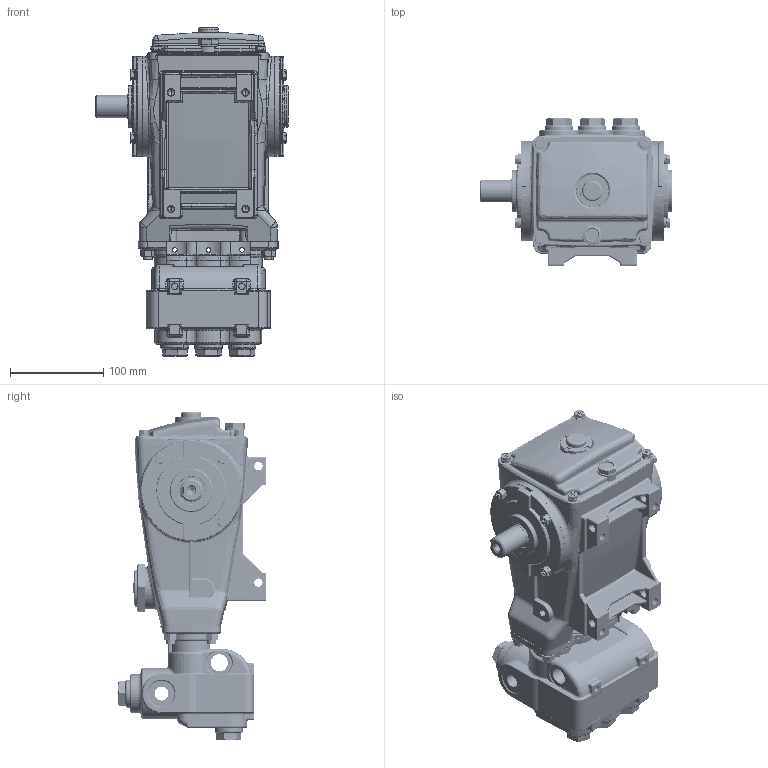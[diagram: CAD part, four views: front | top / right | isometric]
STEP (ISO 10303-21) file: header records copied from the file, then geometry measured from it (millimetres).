
FILE_DESCRIPTION (( 'STEP AP214' ), '1' );
FILE_NAME ('56.STEP', '2012-11-23T08:55:38', ( '' ), ( '' ), 'SwSTEP 2.0', 'SolidWorks 2012', '' );
FILE_SCHEMA (( 'AUTOMOTIVE_DESIGN' ));
Length unit declared in the file: millimetre
Products named in the file (1): 56
Bounding box: 207 x 158.5 x 352.3 mm (x, y, z)
Volume: 2306857.6 mm3; surface area: 470274.8 mm2
Topology: 1 solids, 40 shells, 4382 faces, 10948 edges, 6806 vertices
Faces by surface type: plane 1702, cylinder 1057, bspline 751, torus 441, cone 372, sphere 59
Entity records: 204125 total; most frequent: CARTESIAN_POINT 69722, ORIENTED_EDGE 21722, DIRECTION 19307, EDGE_CURVE 10861, AXIS2_PLACEMENT_3D 7125, VERTEX_POINT 6804, VECTOR 5057, LINE 5057
